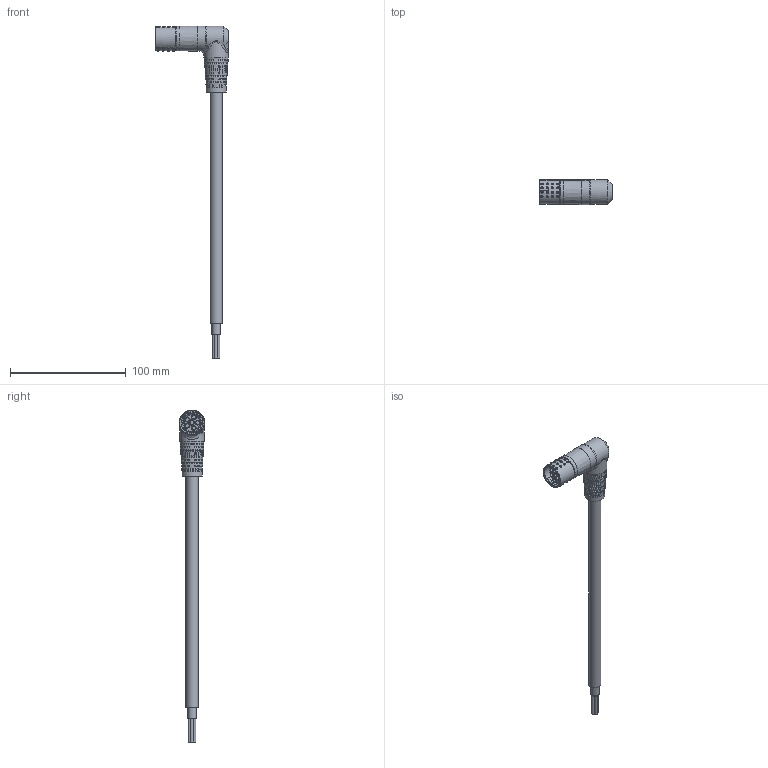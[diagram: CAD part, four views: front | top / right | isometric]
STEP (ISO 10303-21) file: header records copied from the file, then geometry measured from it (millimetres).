
FILE_DESCRIPTION (( 'STEP AP203' ), '1' );
FILE_NAME ('1135025_W-TEC_15M_GLATT_BU-90°L_STEP.STEP', '2023-09-06T11:05:13', ( '' ), ( '' ), 'SwSTEP 2.0', 'SolidWorks 2021', '' );
FILE_SCHEMA (( 'CONFIG_CONTROL_DESIGN' ));
Length unit declared in the file: millimetre
Products named in the file (1): 1135025_W-TEC_15M_GLATT_BU-90袂_STEP
Bounding box: 62.81 x 21.83 x 287.13 mm (x, y, z)
Surface area: 17843.6 mm2 (no closed solid volume)
Topology: 0 solids, 21 shells, 426 faces, 1731 edges, 1246 vertices
Faces by surface type: bspline 246, plane 75, cylinder 75, cone 29, torus 1
Full cylindrical faces by diameter (mm): 2.5 x3, 3.3 x6, 4.2 x3, 6.6 x1, 7.5 x1, 10.6 x1, 16.8 x1, 17.397 x1, 18.4 x1, 21.038 x1, 21.72 x1
Entity records: 36828 total; most frequent: CARTESIAN_POINT 26191, ORIENTED_EDGE 2461, EDGE_CURVE 1638, DIRECTION 1254, VERTEX_POINT 1227, B_SPLINE_CURVE_WITH_KNOTS 930, EDGE_LOOP 522, AXIS2_PLACEMENT_3D 479
